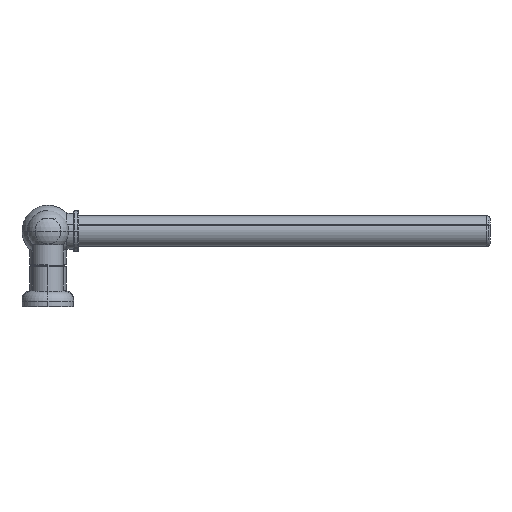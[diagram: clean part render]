
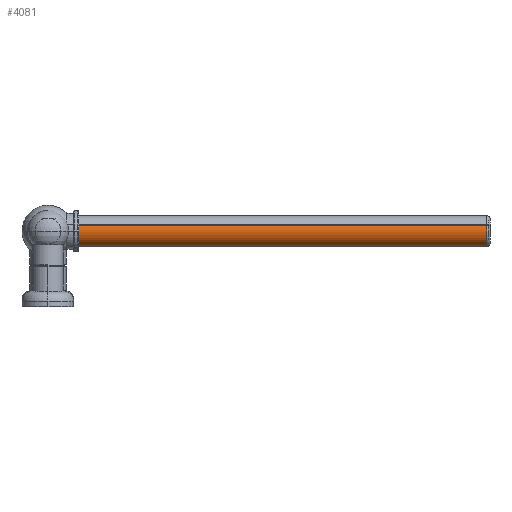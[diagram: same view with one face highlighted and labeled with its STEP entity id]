
A CAD part, front view. The second image highlights one B-rep face of the part: STEP entity #4081.
In plain terms, the highlighted cylindrical face has radius 15 mm (diameter 30 mm), a partial arc.
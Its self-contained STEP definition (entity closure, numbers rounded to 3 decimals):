
#622 = CARTESIAN_POINT ( 'NONE',  ( -433.117, 41.602, 90.549 ) ) ;
#761 = ORIENTED_EDGE ( 'NONE', *, *, #3371, .T. ) ;
#901 = FACE_OUTER_BOUND ( 'NONE', #4329, .T. ) ;
#915 = LINE ( 'NONE', #2511, #10979 ) ;
#1328 = CARTESIAN_POINT ( 'NONE',  ( -433.117, 41.602, 60.549 ) ) ;
#1907 = DIRECTION ( 'NONE',  ( 0., 0., -1. ) ) ;
#2511 = CARTESIAN_POINT ( 'NONE',  ( -436.117, 41.602, 60.549 ) ) ;
#2607 = AXIS2_PLACEMENT_3D ( 'NONE', #7474, #3777, #10282 ) ;
#3285 = DIRECTION ( 'NONE',  ( 0., 0., -1. ) ) ;
#3371 = EDGE_CURVE ( 'NONE', #10390, #7785, #10824, .T. ) ;
#3372 = ORIENTED_EDGE ( 'NONE', *, *, #3695, .T. ) ;
#3644 = EDGE_CURVE ( 'NONE', #7661, #7785, #7892, .T. ) ;
#3695 = EDGE_CURVE ( 'NONE', #10315, #10390, #10733, .T. ) ;
#3750 = VECTOR ( 'NONE', #10650, 1000. ) ;
#3777 = DIRECTION ( 'NONE',  ( 1., 0., 0. ) ) ;
#4081 = ADVANCED_FACE ( 'NONE', ( #901 ), #9059, .T. ) ;
#4329 = EDGE_LOOP ( 'NONE', ( #3372, #761, #7227, #8082 ) ) ;
#4508 = CARTESIAN_POINT ( 'NONE',  ( -436.117, 41.602, 75.549 ) ) ;
#5006 = CARTESIAN_POINT ( 'NONE',  ( -9.117, 41.602, 90.549 ) ) ;
#5640 = AXIS2_PLACEMENT_3D ( 'NONE', #4508, #8993, #1907 ) ;
#7008 = CARTESIAN_POINT ( 'NONE',  ( -436.117, 41.602, 90.549 ) ) ;
#7227 = ORIENTED_EDGE ( 'NONE', *, *, #3644, .F. ) ;
#7285 = CARTESIAN_POINT ( 'NONE',  ( -9.117, 41.602, 60.549 ) ) ;
#7474 = CARTESIAN_POINT ( 'NONE',  ( -9.117, 41.602, 75.549 ) ) ;
#7661 = VERTEX_POINT ( 'NONE', #7285 ) ;
#7785 = VERTEX_POINT ( 'NONE', #5006 ) ;
#7892 = CIRCLE ( 'NONE', #2607, 15. ) ;
#8055 = DIRECTION ( 'NONE',  ( 1., 0., 0. ) ) ;
#8082 = ORIENTED_EDGE ( 'NONE', *, *, #10021, .F. ) ;
#8734 = DIRECTION ( 'NONE',  ( 1., 0., 0. ) ) ;
#8993 = DIRECTION ( 'NONE',  ( 1., 0., 0. ) ) ;
#9028 = AXIS2_PLACEMENT_3D ( 'NONE', #9498, #8734, #3285 ) ;
#9059 = CYLINDRICAL_SURFACE ( 'NONE', #5640, 15. ) ;
#9498 = CARTESIAN_POINT ( 'NONE',  ( -433.117, 41.602, 75.549 ) ) ;
#10021 = EDGE_CURVE ( 'NONE', #10315, #7661, #915, .T. ) ;
#10282 = DIRECTION ( 'NONE',  ( 0., 0., -1. ) ) ;
#10315 = VERTEX_POINT ( 'NONE', #1328 ) ;
#10390 = VERTEX_POINT ( 'NONE', #622 ) ;
#10650 = DIRECTION ( 'NONE',  ( 1., 0., 0. ) ) ;
#10733 = CIRCLE ( 'NONE', #9028, 15. ) ;
#10824 = LINE ( 'NONE', #7008, #3750 ) ;
#10979 = VECTOR ( 'NONE', #8055, 1000. ) ;
